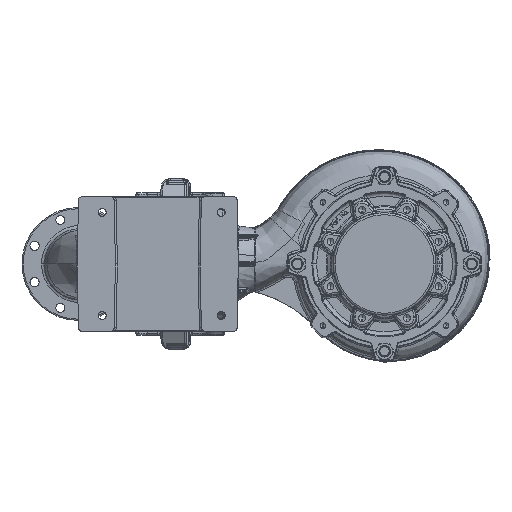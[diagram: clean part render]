
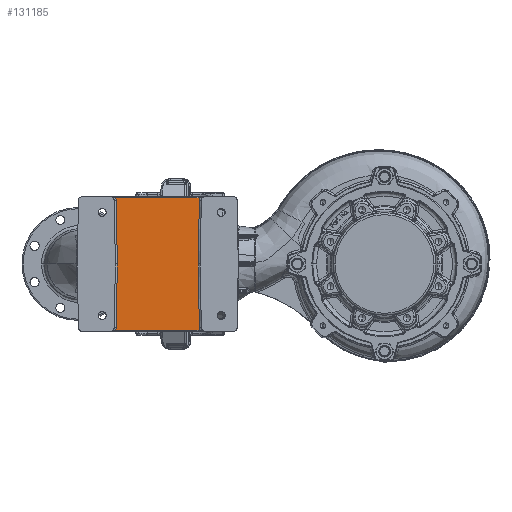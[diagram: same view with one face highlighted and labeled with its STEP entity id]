
A CAD part, front view. The second image highlights one B-rep face of the part: STEP entity #131185.
In plain terms, the highlighted planar face has unit normal (0, -1, 0).
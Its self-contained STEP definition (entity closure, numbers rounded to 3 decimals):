
#2460 = LINE ( 'NONE', #48711, #244865 ) ;
#2666 = DIRECTION ( 'NONE',  ( 0., 0., -1. ) ) ;
#5083 = FACE_OUTER_BOUND ( 'NONE', #242914, .T. ) ;
#10304 = CARTESIAN_POINT ( 'NONE',  ( -691.827, -641.878, 160. ) ) ;
#12733 = EDGE_CURVE ( 'NONE', #282842, #176329, #268916, .T. ) ;
#15831 = DIRECTION ( 'NONE',  ( 0., 0., -1. ) ) ;
#16639 = CARTESIAN_POINT ( 'NONE',  ( -772., -641.878, -167. ) ) ;
#17383 = CARTESIAN_POINT ( 'NONE',  ( -772., -641.878, 0. ) ) ;
#19993 = DIRECTION ( 'NONE',  ( -1., 0., 0. ) ) ;
#33978 = DIRECTION ( 'NONE',  ( 0., 0., -1. ) ) ;
#41029 = VERTEX_POINT ( 'NONE', #205102 ) ;
#41116 = DIRECTION ( 'NONE',  ( 0., 0., -1. ) ) ;
#48711 = CARTESIAN_POINT ( 'NONE',  ( -674.062, -641.878, 1.71 ) ) ;
#48837 = CIRCLE ( 'NONE', #247912, 15. ) ;
#49382 = LINE ( 'NONE', #261922, #291506 ) ;
#52447 = ORIENTED_EDGE ( 'NONE', *, *, #247915, .T. ) ;
#54028 = AXIS2_PLACEMENT_3D ( 'NONE', #296903, #156513, #15831 ) ;
#54849 = ORIENTED_EDGE ( 'NONE', *, *, #236192, .T. ) ;
#57675 = CARTESIAN_POINT ( 'NONE',  ( -469.968, -641.878, 0. ) ) ;
#59500 = EDGE_CURVE ( 'NONE', #294886, #177480, #139649, .T. ) ;
#69979 = CARTESIAN_POINT ( 'NONE',  ( -676.829, -641.878, 160.262 ) ) ;
#74345 = CARTESIAN_POINT ( 'NONE',  ( -467.171, -641.878, -160.262 ) ) ;
#75545 = CARTESIAN_POINT ( 'NONE',  ( -469.967, -641.878, -0.087 ) ) ;
#79083 = VECTOR ( 'NONE', #19993, 1000. ) ;
#81933 = VECTOR ( 'NONE', #171939, 1000. ) ;
#82791 = ORIENTED_EDGE ( 'NONE', *, *, #218581, .T. ) ;
#88478 = CARTESIAN_POINT ( 'NONE',  ( -465.44, -641.878, -167. ) ) ;
#90625 = VERTEX_POINT ( 'NONE', #224439 ) ;
#101029 = AXIS2_PLACEMENT_3D ( 'NONE', #10304, #174578, #33978 ) ;
#101246 = ORIENTED_EDGE ( 'NONE', *, *, #12733, .T. ) ;
#101836 = CIRCLE ( 'NONE', #101029, 15. ) ;
#102264 = LINE ( 'NONE', #16639, #282000 ) ;
#108314 = EDGE_CURVE ( 'NONE', #262079, #90625, #186407, .T. ) ;
#122108 = CARTESIAN_POINT ( 'NONE',  ( -467.171, -641.878, 160.262 ) ) ;
#130663 = DIRECTION ( 'NONE',  ( -0.017, 0., -1. ) ) ;
#131082 = CARTESIAN_POINT ( 'NONE',  ( -452.173, -641.878, -160. ) ) ;
#131185 = ADVANCED_FACE ( 'NONE', ( #5083 ), #250403, .T. ) ;
#133740 = ORIENTED_EDGE ( 'NONE', *, *, #142853, .T. ) ;
#135865 = ORIENTED_EDGE ( 'NONE', *, *, #108314, .T. ) ;
#139649 = CIRCLE ( 'NONE', #182204, 15. ) ;
#141559 = CARTESIAN_POINT ( 'NONE',  ( -676.829, -641.878, -160.262 ) ) ;
#142853 = EDGE_CURVE ( 'NONE', #190977, #206300, #101836, .T. ) ;
#143344 = DIRECTION ( 'NONE',  ( 0., 1., 0. ) ) ;
#154698 = DIRECTION ( 'NONE',  ( 0., 0., -1. ) ) ;
#156513 = DIRECTION ( 'NONE',  ( 0., 1., 0. ) ) ;
#157796 = CARTESIAN_POINT ( 'NONE',  ( -678.56, -641.878, 167. ) ) ;
#159915 = EDGE_CURVE ( 'NONE', #177480, #190977, #266105, .T. ) ;
#162734 = VECTOR ( 'NONE', #130663, 1000. ) ;
#167866 = EDGE_CURVE ( 'NONE', #176329, #294886, #49382, .T. ) ;
#168586 = ORIENTED_EDGE ( 'NONE', *, *, #159915, .T. ) ;
#171939 = DIRECTION ( 'NONE',  ( -0.017, 0., 1. ) ) ;
#174578 = DIRECTION ( 'NONE',  ( 0., 1., 0. ) ) ;
#176329 = VERTEX_POINT ( 'NONE', #57675 ) ;
#177480 = VERTEX_POINT ( 'NONE', #180022 ) ;
#180022 = CARTESIAN_POINT ( 'NONE',  ( -465.44, -641.878, 167. ) ) ;
#181655 = DIRECTION ( 'NONE',  ( 0., -1., 0. ) ) ;
#182204 = AXIS2_PLACEMENT_3D ( 'NONE', #283772, #143344, #2666 ) ;
#186407 = CIRCLE ( 'NONE', #54028, 15. ) ;
#186612 = ORIENTED_EDGE ( 'NONE', *, *, #59500, .T. ) ;
#189269 = EDGE_CURVE ( 'NONE', #226823, #282842, #48837, .T. ) ;
#190977 = VERTEX_POINT ( 'NONE', #157796 ) ;
#192316 = DIRECTION ( 'NONE',  ( 0.017, 0., 1. ) ) ;
#205102 = CARTESIAN_POINT ( 'NONE',  ( -674.032, -641.878, 0. ) ) ;
#205571 = DIRECTION ( 'NONE',  ( 1., 0., 0. ) ) ;
#206300 = VERTEX_POINT ( 'NONE', #69979 ) ;
#207451 = ORIENTED_EDGE ( 'NONE', *, *, #189269, .T. ) ;
#218581 = EDGE_CURVE ( 'NONE', #206300, #41029, #2460, .T. ) ;
#224439 = CARTESIAN_POINT ( 'NONE',  ( -678.56, -641.878, -167. ) ) ;
#226823 = VERTEX_POINT ( 'NONE', #88478 ) ;
#236192 = EDGE_CURVE ( 'NONE', #41029, #262079, #287397, .T. ) ;
#242914 = EDGE_LOOP ( 'NONE', ( #135865, #52447, #207451, #101246, #246658, #186612, #168586, #133740, #82791, #54849 ) ) ;
#244865 = VECTOR ( 'NONE', #301015, 1000. ) ;
#246658 = ORIENTED_EDGE ( 'NONE', *, *, #167866, .T. ) ;
#247912 = AXIS2_PLACEMENT_3D ( 'NONE', #131082, #295111, #154698 ) ;
#247915 = EDGE_CURVE ( 'NONE', #90625, #226823, #102264, .T. ) ;
#250403 = PLANE ( 'NONE',  #295929 ) ;
#252977 = CARTESIAN_POINT ( 'NONE',  ( -772., -641.878, 167. ) ) ;
#261922 = CARTESIAN_POINT ( 'NONE',  ( -470.06, -641.878, -5.27 ) ) ;
#262079 = VERTEX_POINT ( 'NONE', #141559 ) ;
#266105 = LINE ( 'NONE', #252977, #79083 ) ;
#268916 = LINE ( 'NONE', #75545, #81933 ) ;
#271052 = CARTESIAN_POINT ( 'NONE',  ( -676.829, -641.878, -160.262 ) ) ;
#282000 = VECTOR ( 'NONE', #205571, 1000. ) ;
#282842 = VERTEX_POINT ( 'NONE', #74345 ) ;
#283772 = CARTESIAN_POINT ( 'NONE',  ( -452.173, -641.878, 160. ) ) ;
#287397 = LINE ( 'NONE', #271052, #162734 ) ;
#291506 = VECTOR ( 'NONE', #192316, 1000. ) ;
#294886 = VERTEX_POINT ( 'NONE', #122108 ) ;
#295111 = DIRECTION ( 'NONE',  ( 0., 1., 0. ) ) ;
#295929 = AXIS2_PLACEMENT_3D ( 'NONE', #17383, #181655, #41116 ) ;
#296903 = CARTESIAN_POINT ( 'NONE',  ( -691.827, -641.878, -160. ) ) ;
#301015 = DIRECTION ( 'NONE',  ( 0.017, 0., -1. ) ) ;
